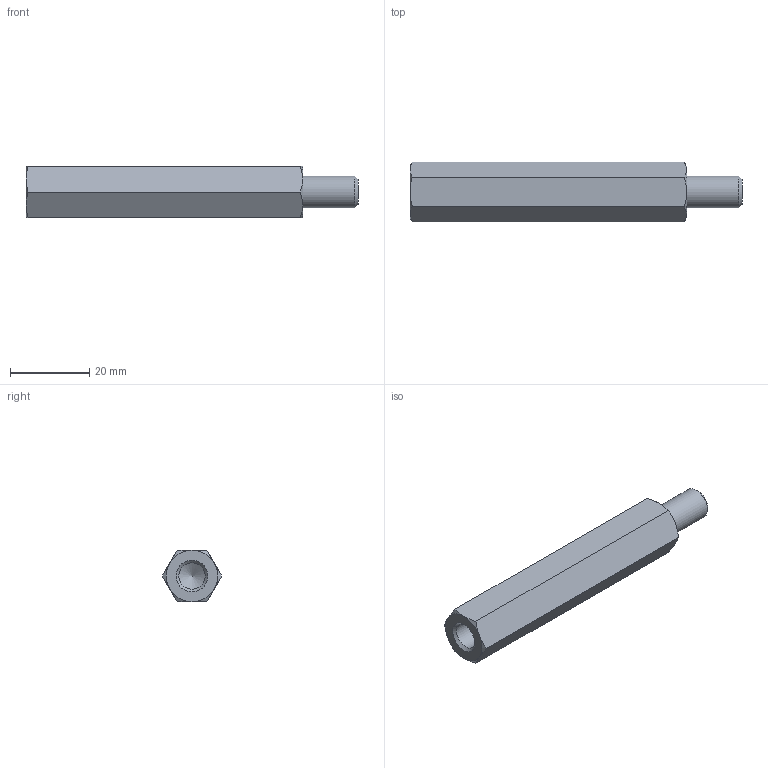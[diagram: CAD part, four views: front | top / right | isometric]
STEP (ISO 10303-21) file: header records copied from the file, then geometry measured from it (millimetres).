
FILE_DESCRIPTION( ( 'STEP AP203' ), '1' );
FILE_NAME( 'C:/Temp/Ganter_Step_05_03_2020/data/3_2/gn6220/gn6220_st/Spacer GN 6220-ST-M8-70-B.stp', '2020-03-13T05:42:51', ( 'License CC BY-ND 4.0' ), ( 'CADENAS' ), ' ', 'PARTsolutions', ' ' );
FILE_SCHEMA( ( 'CONFIG_CONTROL_DESIGN' ) );
Length unit declared in the file: millimetre
Products named in the file (1): _Spacer GN 6220-ST-M8-70-B
Bounding box: 84 x 15.01 x 13 mm (x, y, z)
Volume: 10208 mm3; surface area: 4191.1 mm2
Topology: 1 solids, 1 shells, 26 faces, 55 edges, 32 vertices
Faces by surface type: cone 15, plane 9, cylinder 2
Full cylindrical faces by diameter (mm): 6.647 x1, 8 x1
Entity records: 778 total; most frequent: CARTESIAN_POINT 242, DIRECTION 96, ORIENTED_EDGE 96, EDGE_CURVE 48, AXIS2_PLACEMENT_3D 45, EDGE_LOOP 32, VERTEX_POINT 31, FACE_OUTER_BOUND 28
